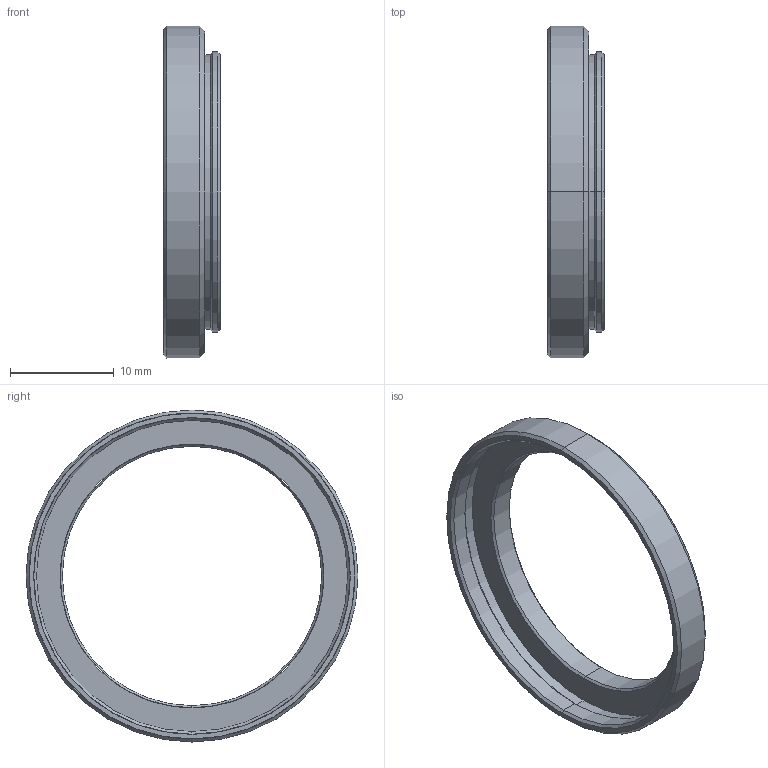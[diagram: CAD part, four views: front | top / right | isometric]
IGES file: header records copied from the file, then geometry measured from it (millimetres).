
Start section: SolidWorks IGES file using analytic representation for surfaces
Global section: file name: \\192.168.200.11\Development\3 製品\1 標準品\07 オプション\04 SV-FAD series\SV-FAD270-305\10.3D外観モデル\SV-FAD270-305.IGS; native system: SolidWorks 2020; preprocessor: SolidWorks 2020; author: sugiyama_vst; date: 200729.095507; units: millimetre
Bounding box: 5.5 x 32 x 32 mm (x, y, z)
Surface area: 1607.2 mm2 (no closed solid volume)
Topology: 0 solids, 0 shells, 32 faces, 496 edges, 496 vertices
Faces by surface type: revolution 28, bspline 4
